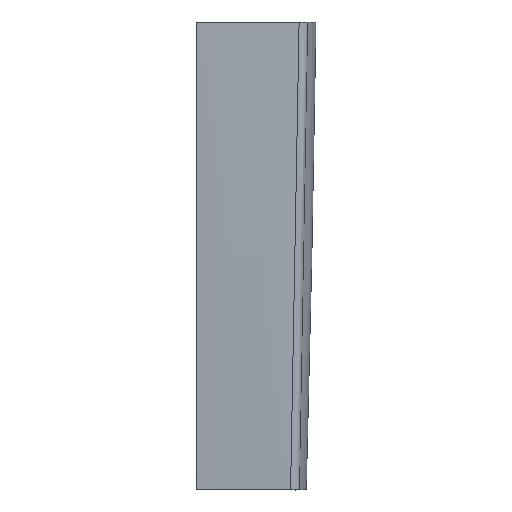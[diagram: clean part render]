
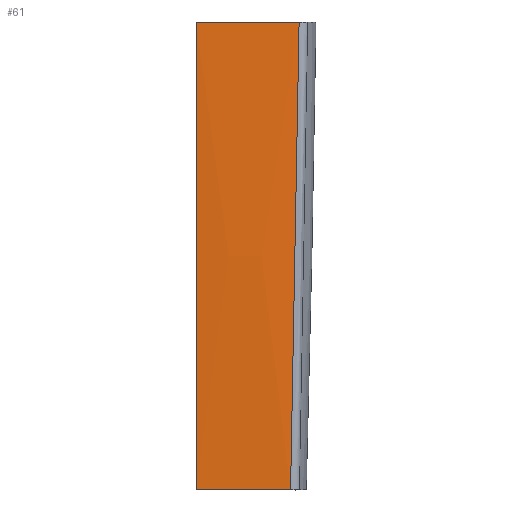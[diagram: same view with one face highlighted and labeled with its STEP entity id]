
A CAD part, left-side view. The second image highlights one B-rep face of the part: STEP entity #61.
In plain terms, the highlighted free-form (B-spline) face has degree [3, 2] with [4, 3] control points.
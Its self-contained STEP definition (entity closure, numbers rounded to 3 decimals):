
#48=B_SPLINE_SURFACE_WITH_KNOTS('',3,2,((#436,#437,#438),(#439,#440,#441),
(#442,#443,#444),(#445,#446,#447)),.UNSPECIFIED.,.F.,.F.,.F.,(4,4),(3,3),
(0.,1.),(0.,1.),.UNSPECIFIED.);
#61=ADVANCED_FACE('',(#83),#48,.F.);
#83=FACE_OUTER_BOUND('',#101,.T.);
#101=EDGE_LOOP('',(#125,#126,#127,#128));
#125=ORIENTED_EDGE('',*,*,#239,.T.);
#126=ORIENTED_EDGE('',*,*,#244,.F.);
#127=ORIENTED_EDGE('',*,*,#245,.F.);
#128=ORIENTED_EDGE('',*,*,#246,.F.);
#207=VERTEX_POINT('',#353);
#208=VERTEX_POINT('',#358);
#211=VERTEX_POINT('',#427);
#212=VERTEX_POINT('',#431);
#239=EDGE_CURVE('',#208,#207,#287,.T.);
#244=EDGE_CURVE('',#211,#207,#292,.T.);
#245=EDGE_CURVE('',#212,#211,#293,.T.);
#246=EDGE_CURVE('',#208,#212,#294,.T.);
#287=B_SPLINE_CURVE_WITH_KNOTS('',3,(#354,#355,#356,#357),.UNSPECIFIED.,
 .F.,.F.,(4,4),(0.,1.),.UNSPECIFIED.);
#292=B_SPLINE_CURVE_WITH_KNOTS('',3,(#423,#424,#425,#426),.UNSPECIFIED.,
 .F.,.F.,(4,4),(0.,1.),.UNSPECIFIED.);
#293=B_SPLINE_CURVE_WITH_KNOTS('',2,(#428,#429,#430),.UNSPECIFIED.,.F.,.F.,
(3,3),(0.,1.),.UNSPECIFIED.);
#294=B_SPLINE_CURVE_WITH_KNOTS('',3,(#432,#433,#434,#435),.UNSPECIFIED.,
 .F.,.F.,(4,4),(0.,1.),.UNSPECIFIED.);
#353=CARTESIAN_POINT('',(-84.526,-277.24,0.));
#354=CARTESIAN_POINT('',(-78.748,-263.445,-758.004));
#355=CARTESIAN_POINT('',(-83.378,-269.919,-505.404));
#356=CARTESIAN_POINT('',(-85.292,-274.427,-252.709));
#357=CARTESIAN_POINT('',(-84.526,-277.24,0.));
#358=CARTESIAN_POINT('',(-78.748,-263.445,-758.004));
#423=CARTESIAN_POINT('',(-93.403,-110.294,0.));
#424=CARTESIAN_POINT('',(-90.966,-164.675,0.));
#425=CARTESIAN_POINT('',(-88.007,-220.324,0.));
#426=CARTESIAN_POINT('',(-84.526,-277.24,0.));
#427=CARTESIAN_POINT('',(-93.403,-110.294,0.));
#428=CARTESIAN_POINT('',(-85.148,-110.294,-758.004));
#429=CARTESIAN_POINT('',(-93.458,-110.294,-379.048));
#430=CARTESIAN_POINT('',(-93.403,-110.294,0.));
#431=CARTESIAN_POINT('',(-85.148,-110.294,-758.004));
#432=CARTESIAN_POINT('',(-78.748,-263.445,-758.004));
#433=CARTESIAN_POINT('',(-81.296,-213.35,-758.004));
#434=CARTESIAN_POINT('',(-83.43,-162.3,-758.004));
#435=CARTESIAN_POINT('',(-85.148,-110.294,-758.004));
#436=CARTESIAN_POINT('',(-72.279,-375.127,-758.004));
#437=CARTESIAN_POINT('',(-78.389,-389.508,-379.024));
#438=CARTESIAN_POINT('',(-76.07,-403.88,0.));
#439=CARTESIAN_POINT('',(-78.026,-286.922,-758.004));
#440=CARTESIAN_POINT('',(-84.922,-294.576,-379.032));
#441=CARTESIAN_POINT('',(-83.41,-302.224,0.));
#442=CARTESIAN_POINT('',(-82.23,-198.63,-758.004));
#443=CARTESIAN_POINT('',(-89.902,-201.498,-379.04));
#444=CARTESIAN_POINT('',(-89.187,-204.362,0.));
#445=CARTESIAN_POINT('',(-85.148,-110.294,-758.004));
#446=CARTESIAN_POINT('',(-93.458,-110.294,-379.048));
#447=CARTESIAN_POINT('',(-93.403,-110.294,0.));
